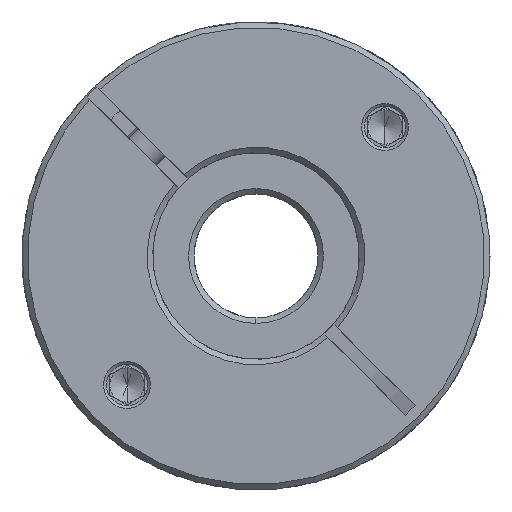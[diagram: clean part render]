
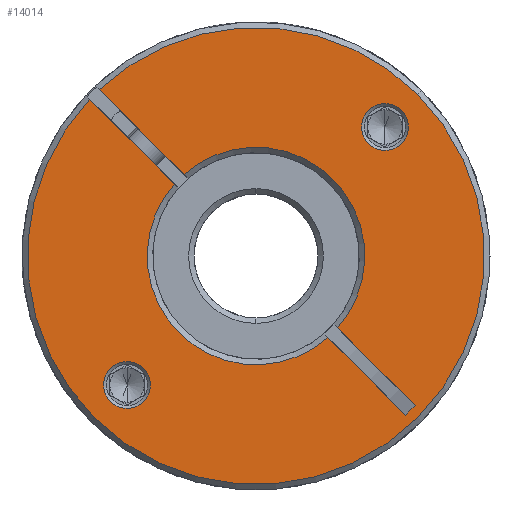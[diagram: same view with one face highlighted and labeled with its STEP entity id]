
A CAD part, front view. The second image highlights one B-rep face of the part: STEP entity #14014.
In plain terms, the highlighted planar face has unit normal (0, -1, 0).
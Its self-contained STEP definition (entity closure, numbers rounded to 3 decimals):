
#25 = CARTESIAN_POINT ( 'NONE',  ( -2.735, -67.045, 68. ) ) ;
#60 = AXIS2_PLACEMENT_3D ( 'NONE', #4213, #20572, #5765 ) ;
#387 = EDGE_CURVE ( 'NONE', #11971, #6345, #6409, .T. ) ;
#730 = VERTEX_POINT ( 'NONE', #18430 ) ;
#826 = CARTESIAN_POINT ( 'NONE',  ( -2.735, -67.045, 68. ) ) ;
#868 = AXIS2_PLACEMENT_3D ( 'NONE', #8669, #3849, #5536 ) ;
#1370 = VECTOR ( 'NONE', #13805, 1000. ) ;
#1769 = CIRCLE ( 'NONE', #21130, 33.2 ) ;
#2506 = EDGE_CURVE ( 'NONE', #21465, #8761, #16460, .T. ) ;
#2752 = ORIENTED_EDGE ( 'NONE', *, *, #9127, .T. ) ;
#2755 = AXIS2_PLACEMENT_3D ( 'NONE', #826, #12307, #9140 ) ;
#2765 = ORIENTED_EDGE ( 'NONE', *, *, #6599, .T. ) ;
#2879 = EDGE_CURVE ( 'NONE', #12029, #3926, #14886, .T. ) ;
#2900 = ORIENTED_EDGE ( 'NONE', *, *, #19081, .T. ) ;
#2914 = AXIS2_PLACEMENT_3D ( 'NONE', #9867, #4792, #2987 ) ;
#2987 = DIRECTION ( 'NONE',  ( 0.707, 0., 0.707 ) ) ;
#3218 = DIRECTION ( 'NONE',  ( 0.707, 0., -0.707 ) ) ;
#3689 = LINE ( 'NONE', #6664, #13512 ) ;
#3849 = DIRECTION ( 'NONE',  ( 0., 1., 0. ) ) ;
#3926 = VERTEX_POINT ( 'NONE', #14801 ) ;
#4050 = CARTESIAN_POINT ( 'NONE',  ( -14.592, -67.045, 78.443 ) ) ;
#4162 = EDGE_CURVE ( 'NONE', #730, #17317, #13536, .T. ) ;
#4213 = CARTESIAN_POINT ( 'NONE',  ( -2.735, -67.045, 68. ) ) ;
#4397 = DIRECTION ( 'NONE',  ( 0.707, 0., 0.707 ) ) ;
#4470 = LINE ( 'NONE', #8109, #15130 ) ;
#4483 = EDGE_CURVE ( 'NONE', #15019, #11321, #10162, .T. ) ;
#4526 = EDGE_CURVE ( 'NONE', #6345, #13873, #11470, .T. ) ;
#4792 = DIRECTION ( 'NONE',  ( 0., 1., 0. ) ) ;
#5097 = DIRECTION ( 'NONE',  ( 0.707, 0., 0.707 ) ) ;
#5315 = EDGE_CURVE ( 'NONE', #16446, #15019, #13496, .T. ) ;
#5536 = DIRECTION ( 'NONE',  ( 0.707, 0., 0.707 ) ) ;
#5627 = ORIENTED_EDGE ( 'NONE', *, *, #18735, .T. ) ;
#5639 = CARTESIAN_POINT ( 'NONE',  ( -19.069, -67.045, 51.666 ) ) ;
#5765 = DIRECTION ( 'NONE',  ( 0.707, 0., 0.707 ) ) ;
#6023 = CIRCLE ( 'NONE', #18815, 3.4 ) ;
#6345 = VERTEX_POINT ( 'NONE', #20400 ) ;
#6409 = CIRCLE ( 'NONE', #2755, 15.8 ) ;
#6480 = AXIS2_PLACEMENT_3D ( 'NONE', #14965, #16616, #5097 ) ;
#6566 = CARTESIAN_POINT ( 'NONE',  ( -2.735, -67.045, 68. ) ) ;
#6599 = EDGE_CURVE ( 'NONE', #8761, #21465, #6023, .T. ) ;
#6623 = DIRECTION ( 'NONE',  ( 0.707, 0., -0.707 ) ) ;
#6664 = CARTESIAN_POINT ( 'NONE',  ( -3.442, -67.045, 67.293 ) ) ;
#7231 = DIRECTION ( 'NONE',  ( 0., 1., 0. ) ) ;
#7274 = CARTESIAN_POINT ( 'NONE',  ( -2.735, -67.045, 68. ) ) ;
#7658 = EDGE_CURVE ( 'NONE', #730, #19676, #4470, .T. ) ;
#7920 = ORIENTED_EDGE ( 'NONE', *, *, #2506, .T. ) ;
#8109 = CARTESIAN_POINT ( 'NONE',  ( -3.442, -67.045, 67.293 ) ) ;
#8195 = CARTESIAN_POINT ( 'NONE',  ( -26.211, -67.045, 44.524 ) ) ;
#8334 = EDGE_LOOP ( 'NONE', ( #2765, #7920 ) ) ;
#8548 = EDGE_CURVE ( 'NONE', #20674, #17317, #3689, .T. ) ;
#8669 = CARTESIAN_POINT ( 'NONE',  ( 16.003, -67.045, 86.738 ) ) ;
#8705 = EDGE_CURVE ( 'NONE', #15012, #11971, #10924, .T. ) ;
#8761 = VERTEX_POINT ( 'NONE', #5639 ) ;
#8872 = VECTOR ( 'NONE', #6623, 1000. ) ;
#9127 = EDGE_CURVE ( 'NONE', #3926, #12029, #14810, .T. ) ;
#9140 = DIRECTION ( 'NONE',  ( 0.707, 0., 0.707 ) ) ;
#9330 = ORIENTED_EDGE ( 'NONE', *, *, #4162, .T. ) ;
#9697 = DIRECTION ( 'NONE',  ( -0.707, 0., -0.707 ) ) ;
#9707 = CARTESIAN_POINT ( 'NONE',  ( -2.735, -67.045, 68. ) ) ;
#9860 = DIRECTION ( 'NONE',  ( 0.707, 0., 0.707 ) ) ;
#9867 = CARTESIAN_POINT ( 'NONE',  ( 16.003, -67.045, 86.738 ) ) ;
#9873 = CARTESIAN_POINT ( 'NONE',  ( -26.908, -67.045, 90.758 ) ) ;
#9885 = FACE_BOUND ( 'NONE', #8334, .T. ) ;
#9944 = LINE ( 'NONE', #15420, #1370 ) ;
#9963 = ORIENTED_EDGE ( 'NONE', *, *, #387, .T. ) ;
#9979 = CARTESIAN_POINT ( 'NONE',  ( 18.988, -67.045, 44.862 ) ) ;
#10162 = CIRCLE ( 'NONE', #12027, 33.2 ) ;
#10719 = DIRECTION ( 'NONE',  ( 0., 1., 0. ) ) ;
#10924 = CIRCLE ( 'NONE', #60, 15.8 ) ;
#11309 = EDGE_LOOP ( 'NONE', ( #20373, #2752 ) ) ;
#11321 = VERTEX_POINT ( 'NONE', #20719 ) ;
#11440 = FACE_OUTER_BOUND ( 'NONE', #17189, .T. ) ;
#11452 = EDGE_CURVE ( 'NONE', #20674, #16446, #1769, .T. ) ;
#11470 = LINE ( 'NONE', #13367, #8872 ) ;
#11971 = VERTEX_POINT ( 'NONE', #18149 ) ;
#11973 = LINE ( 'NONE', #9979, #14078 ) ;
#12027 = AXIS2_PLACEMENT_3D ( 'NONE', #6566, #20263, #12204 ) ;
#12029 = VERTEX_POINT ( 'NONE', #14803 ) ;
#12181 = DIRECTION ( 'NONE',  ( 0., -1., 0. ) ) ;
#12204 = DIRECTION ( 'NONE',  ( 0.707, 0., 0.707 ) ) ;
#12307 = DIRECTION ( 'NONE',  ( 0., 1., 0. ) ) ;
#13367 = CARTESIAN_POINT ( 'NONE',  ( -2.028, -67.045, 68.707 ) ) ;
#13410 = DIRECTION ( 'NONE',  ( 0.707, 0., -0.707 ) ) ;
#13496 = CIRCLE ( 'NONE', #18786, 33.2 ) ;
#13512 = VECTOR ( 'NONE', #13410, 1000. ) ;
#13528 = ORIENTED_EDGE ( 'NONE', *, *, #8548, .F. ) ;
#13536 = CIRCLE ( 'NONE', #13877, 15.8 ) ;
#13805 = DIRECTION ( 'NONE',  ( 0.707, 0., -0.707 ) ) ;
#13873 = VERTEX_POINT ( 'NONE', #18627 ) ;
#13877 = AXIS2_PLACEMENT_3D ( 'NONE', #15716, #10719, #18775 ) ;
#14014 = ADVANCED_FACE ( 'NONE', ( #19492, #9885, #11440 ), #19332, .T. ) ;
#14078 = VECTOR ( 'NONE', #9697, 1000. ) ;
#14766 = ORIENTED_EDGE ( 'NONE', *, *, #8705, .T. ) ;
#14801 = CARTESIAN_POINT ( 'NONE',  ( 13.599, -67.045, 84.334 ) ) ;
#14803 = CARTESIAN_POINT ( 'NONE',  ( 18.407, -67.045, 89.142 ) ) ;
#14810 = CIRCLE ( 'NONE', #868, 3.4 ) ;
#14886 = CIRCLE ( 'NONE', #2914, 3.4 ) ;
#14965 = CARTESIAN_POINT ( 'NONE',  ( -21.473, -67.045, 49.262 ) ) ;
#15012 = VERTEX_POINT ( 'NONE', #21161 ) ;
#15019 = VERTEX_POINT ( 'NONE', #16200 ) ;
#15037 = AXIS2_PLACEMENT_3D ( 'NONE', #7274, #12181, #4397 ) ;
#15130 = VECTOR ( 'NONE', #3218, 1000. ) ;
#15420 = CARTESIAN_POINT ( 'NONE',  ( -2.028, -67.045, 68.707 ) ) ;
#15522 = ORIENTED_EDGE ( 'NONE', *, *, #4483, .T. ) ;
#15582 = CARTESIAN_POINT ( 'NONE',  ( -21.473, -67.045, 49.262 ) ) ;
#15716 = CARTESIAN_POINT ( 'NONE',  ( -2.735, -67.045, 68. ) ) ;
#16200 = CARTESIAN_POINT ( 'NONE',  ( 20.741, -67.045, 91.476 ) ) ;
#16276 = ORIENTED_EDGE ( 'NONE', *, *, #7658, .F. ) ;
#16446 = VERTEX_POINT ( 'NONE', #8195 ) ;
#16460 = CIRCLE ( 'NONE', #6480, 3.4 ) ;
#16616 = DIRECTION ( 'NONE',  ( 0., 1., 0. ) ) ;
#16692 = ORIENTED_EDGE ( 'NONE', *, *, #11452, .T. ) ;
#17189 = EDGE_LOOP ( 'NONE', ( #13528, #16692, #17760, #15522, #2900, #14766, #9963, #18761, #5627, #16276, #9330 ) ) ;
#17317 = VERTEX_POINT ( 'NONE', #4050 ) ;
#17760 = ORIENTED_EDGE ( 'NONE', *, *, #5315, .T. ) ;
#18149 = CARTESIAN_POINT ( 'NONE',  ( 8.437, -67.045, 79.172 ) ) ;
#18212 = DIRECTION ( 'NONE',  ( 0., -1., 0. ) ) ;
#18430 = CARTESIAN_POINT ( 'NONE',  ( 7.708, -67.045, 56.143 ) ) ;
#18627 = CARTESIAN_POINT ( 'NONE',  ( 20.402, -67.045, 46.277 ) ) ;
#18697 = CARTESIAN_POINT ( 'NONE',  ( -23.878, -67.045, 46.858 ) ) ;
#18735 = EDGE_CURVE ( 'NONE', #13873, #19676, #11973, .T. ) ;
#18761 = ORIENTED_EDGE ( 'NONE', *, *, #4526, .T. ) ;
#18775 = DIRECTION ( 'NONE',  ( 0.707, 0., 0.707 ) ) ;
#18786 = AXIS2_PLACEMENT_3D ( 'NONE', #9707, #19594, #9860 ) ;
#18815 = AXIS2_PLACEMENT_3D ( 'NONE', #15582, #7231, #20702 ) ;
#19081 = EDGE_CURVE ( 'NONE', #11321, #15012, #9944, .T. ) ;
#19332 = PLANE ( 'NONE',  #15037 ) ;
#19492 = FACE_BOUND ( 'NONE', #11309, .T. ) ;
#19594 = DIRECTION ( 'NONE',  ( 0., -1., 0. ) ) ;
#19676 = VERTEX_POINT ( 'NONE', #21005 ) ;
#20263 = DIRECTION ( 'NONE',  ( 0., -1., 0. ) ) ;
#20373 = ORIENTED_EDGE ( 'NONE', *, *, #2879, .T. ) ;
#20400 = CARTESIAN_POINT ( 'NONE',  ( 9.122, -67.045, 57.557 ) ) ;
#20572 = DIRECTION ( 'NONE',  ( 0., 1., 0. ) ) ;
#20674 = VERTEX_POINT ( 'NONE', #9873 ) ;
#20702 = DIRECTION ( 'NONE',  ( 0.707, 0., 0.707 ) ) ;
#20719 = CARTESIAN_POINT ( 'NONE',  ( -25.493, -67.045, 92.172 ) ) ;
#21005 = CARTESIAN_POINT ( 'NONE',  ( 18.988, -67.045, 44.862 ) ) ;
#21130 = AXIS2_PLACEMENT_3D ( 'NONE', #25, #18212, #21358 ) ;
#21161 = CARTESIAN_POINT ( 'NONE',  ( -13.178, -67.045, 79.857 ) ) ;
#21358 = DIRECTION ( 'NONE',  ( 0.707, 0., 0.707 ) ) ;
#21465 = VERTEX_POINT ( 'NONE', #18697 ) ;
